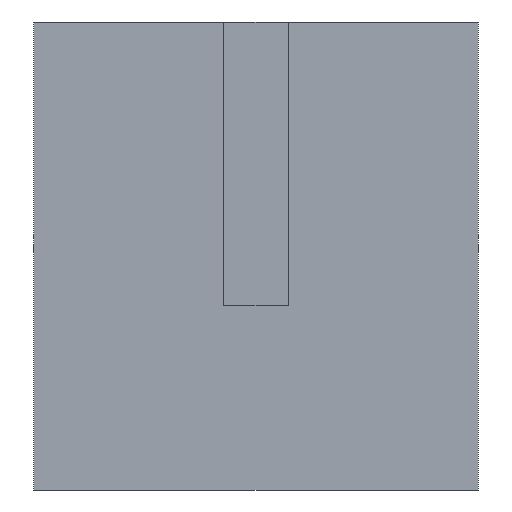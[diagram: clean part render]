
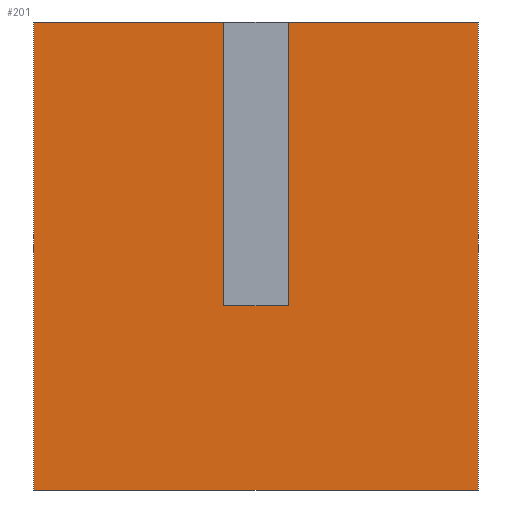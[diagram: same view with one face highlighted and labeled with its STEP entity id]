
A CAD part, front view. The second image highlights one B-rep face of the part: STEP entity #201.
In plain terms, the highlighted planar face has unit normal (0, -1, 0).
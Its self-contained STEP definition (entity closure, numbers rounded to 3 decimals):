
#100=CARTESIAN_POINT('',(-3.325,-1.9,0.));
#101=VERTEX_POINT('',#100);
#102=CARTESIAN_POINT('',(6.325,-1.9,0.));
#103=VERTEX_POINT('',#102);
#108=CARTESIAN_POINT('',(-3.325,-1.9,10.15));
#109=VERTEX_POINT('',#108);
#110=CARTESIAN_POINT('',(6.325,-1.9,10.15));
#111=VERTEX_POINT('',#110);
#134=DIRECTION('',(1.0,0.0,0.0));
#135=VECTOR('',#134,9.65);
#136=CARTESIAN_POINT('',(-3.325,-1.9,0.));
#137=LINE('',#136,#135);
#138=EDGE_CURVE('',#101,#103,#137,.T.);
#148=DIRECTION('',(1.0,0.0,0.0));
#149=VECTOR('',#148,9.65);
#150=CARTESIAN_POINT('',(-3.325,-1.9,10.15));
#151=LINE('',#150,#149);
#152=EDGE_CURVE('',#109,#111,#151,.T.);
#180=ORIENTED_EDGE('',*,*,#138,.T.);
#181=DIRECTION('',(0.0,0.0,1.0));
#182=VECTOR('',#181,10.15);
#183=CARTESIAN_POINT('',(6.325,-1.9,0.));
#184=LINE('',#183,#182);
#185=EDGE_CURVE('',#103,#111,#184,.T.);
#186=ORIENTED_EDGE('',*,*,#185,.T.);
#187=ORIENTED_EDGE('',*,*,#152,.F.);
#188=DIRECTION('',(0.0,0.0,1.0));
#189=VECTOR('',#188,10.15);
#190=CARTESIAN_POINT('',(-3.325,-1.9,0.));
#191=LINE('',#190,#189);
#192=EDGE_CURVE('',#101,#109,#191,.T.);
#193=ORIENTED_EDGE('',*,*,#192,.F.);
#194=EDGE_LOOP('',(#180,#186,#187,#193));
#195=FACE_OUTER_BOUND('',#194,.T.);
#196=CARTESIAN_POINT('',(-3.325,-1.9,0.));
#197=DIRECTION('',(0.0,-1.0,0.0));
#198=DIRECTION('',(1.0,0.0,0.0));
#199=AXIS2_PLACEMENT_3D('',#196,#197,#198);
#200=PLANE('',#199);
#201=ADVANCED_FACE('',(#195),#200,.T.);
